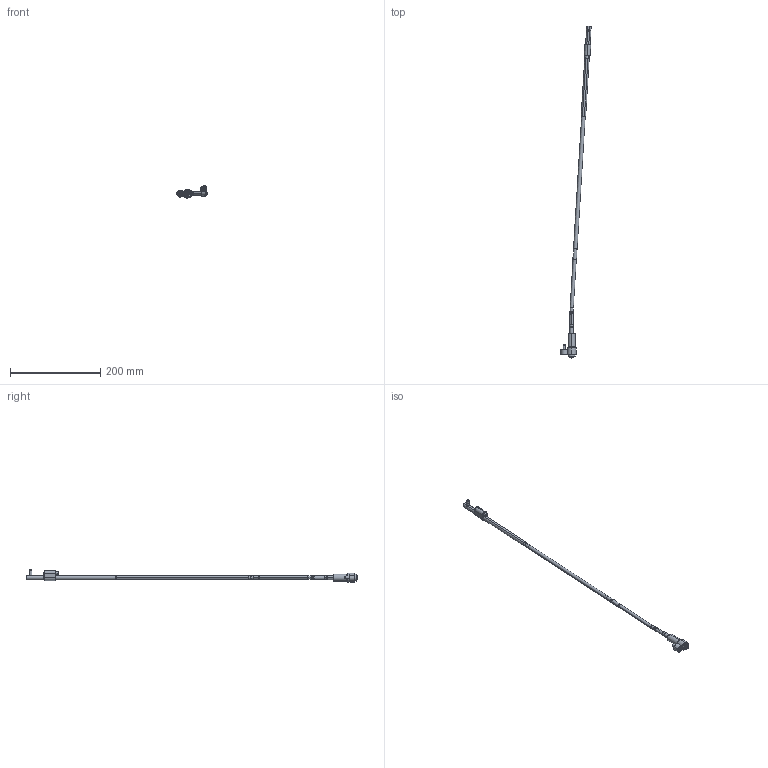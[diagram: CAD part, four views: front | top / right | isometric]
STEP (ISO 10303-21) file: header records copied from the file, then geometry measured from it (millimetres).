
FILE_DESCRIPTION (( 'STEP AP214' ), '1' );
FILE_NAME ('WL080100L-EJE 3,5°.STEP', '2021-03-19T15:24:38', ( '' ), ( '' ), 'SwSTEP 2.0', 'SolidWorks 2019', '' );
FILE_SCHEMA (( 'AUTOMOTIVE_DESIGN' ));
Length unit declared in the file: millimetre
Products named in the file (17): WL080100-C; WL080100-B_WL0800FF; 9DR2206-TOR; Web-WL08-A1; Web-WL08-F01; Web-WP08-1; Web-WL08XX-A7_ON-WL080100-3,5; Web-WL08-F00.SLDPRT; 1DIN912616_DIN 912 M6 x 16 --- 16C; Web-WL08-A2; WL080100-B1_WL0800FF-1; 3IMAN4X2-150_con sello; WL080100-D; 1DIN912545_DIN 912 M5 x 50 --- 50C; Web-WL08-A3; WL080100-E; WL080100L-EJE 3,5°
Assembly tree (16 placements, depth 3):
  WL080100L-EJE 3,5°
    Web-WP08-1
    Web-WL08XX-A7_ON-WL080100-3,5
    Web-WL08-A3
    Web-WL08-A2
    Web-WL08-A1
    WL080100-D
    WL080100-C
    WL080100-B_WL0800FF
      WL080100-B1_WL0800FF-1
      3IMAN4X2-150_con sello
    WL080100-E
    9DR2206-TOR
    Web-WL08-F00.SLDPRT
      Web-WL08-F01
      1DIN912545_DIN 912 M5 x 50 --- 50C
      1DIN912616_DIN 912 M6 x 16 --- 16C
Bounding box: 67.29 x 736.1 x 26.9 mm (x, y, z)
Volume: 57313.1 mm3; surface area: 33635.8 mm2
Topology: 15 solids, 15 shells, 424 faces, 888 edges, 516 vertices
Faces by surface type: plane 132, cylinder 128, cone 116, torus 48
Entity records: 13492 total; most frequent: DIRECTION 2218, CARTESIAN_POINT 2045, ORIENTED_EDGE 1756, AXIS2_PLACEMENT_3D 921, EDGE_CURVE 878, VERTEX_POINT 516, CIRCLE 476, EDGE_LOOP 468
